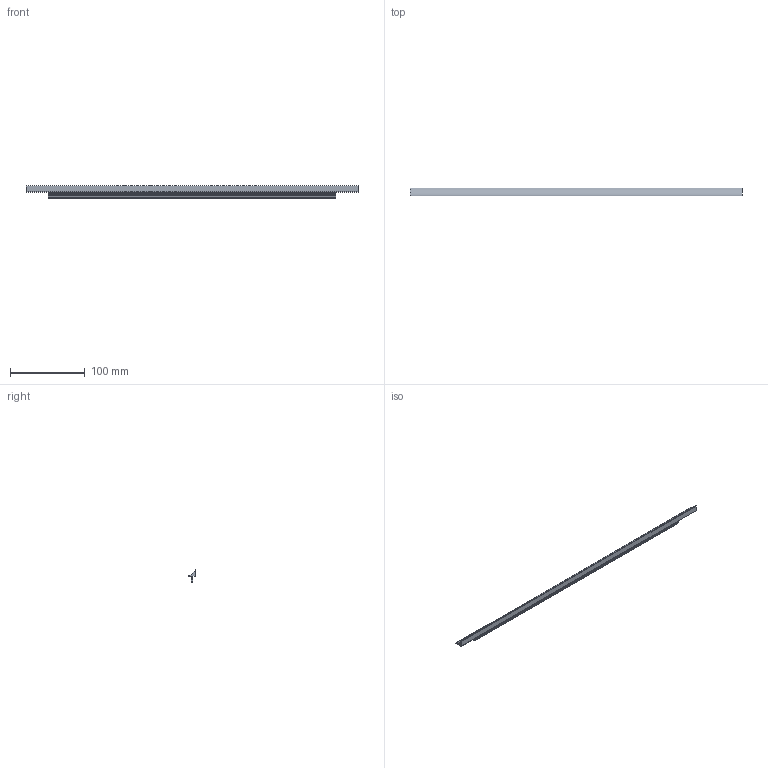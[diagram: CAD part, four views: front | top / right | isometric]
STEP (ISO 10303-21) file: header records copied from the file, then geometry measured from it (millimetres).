
FILE_DESCRIPTION( ( 'STEP AP214' ), '1' );
FILE_NAME( 'C:/Users/KOSH/Desktop/2021/Sunil/New folder/9208099.stp', '2021-11-15T12:54:47', ( '' ), ( '' ), ' ', 'PARTsolutions', ' ' );
FILE_SCHEMA( ( 'AUTOMOTIVE_DESIGN { 1 0 10303 214 1 1 1 1 }' ) );
Length unit declared in the file: millimetre
Products named in the file (1): _9208099
Bounding box: 445 x 10.49 x 16.51 mm (x, y, z)
Volume: 23780.4 mm3; surface area: 22107.8 mm2
Topology: 1 solids, 1 shells, 29 faces, 78 edges, 52 vertices
Faces by surface type: plane 25, cylinder 4
Entity records: 1148 total; most frequent: CARTESIAN_POINT 160, ORIENTED_EDGE 156, DIRECTION 146, EDGE_CURVE 78, LINE 70, VECTOR 70, VERTEX_POINT 52, AXIS2_PLACEMENT_3D 38
